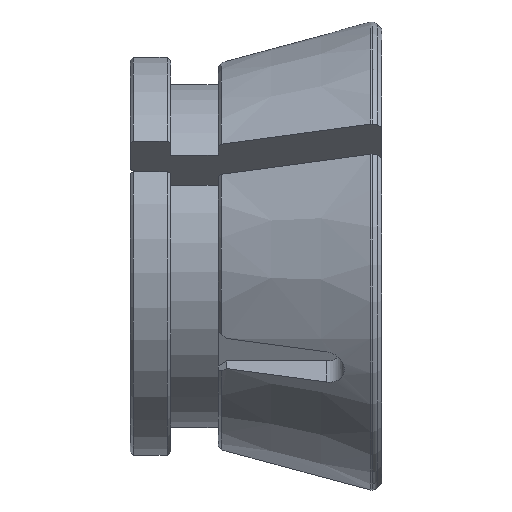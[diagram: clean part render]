
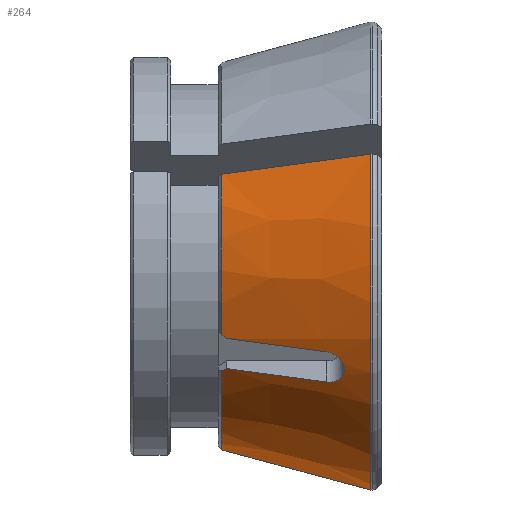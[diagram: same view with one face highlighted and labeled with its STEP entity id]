
A CAD part, top view. The second image highlights one B-rep face of the part: STEP entity #264.
In plain terms, the highlighted conical face has half-angle 15 degrees and reference radius 46.5 mm.
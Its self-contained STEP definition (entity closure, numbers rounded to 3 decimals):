
#78=CONICAL_SURFACE('',#1981,46.5,15.);
#96=ELLIPSE('',#1976,86.53,43.951);
#97=ELLIPSE('',#1980,86.53,43.951);
#161=FACE_OUTER_BOUND('',#627,.T.);
#264=ADVANCED_FACE('',(#161),#78,.T.);
#627=EDGE_LOOP('',(#1030,#1031,#1032,#1033,#1034,#1035,#1036,#1037,#1038,
#1039));
#741=CIRCLE('',#1977,38.572);
#742=CIRCLE('',#1978,46.5);
#743=CIRCLE('',#1979,38.572);
#1030=ORIENTED_EDGE('',*,*,#1670,.F.);
#1031=ORIENTED_EDGE('',*,*,#1671,.T.);
#1032=ORIENTED_EDGE('',*,*,#1661,.T.);
#1033=ORIENTED_EDGE('',*,*,#1672,.T.);
#1034=ORIENTED_EDGE('',*,*,#1642,.F.);
#1035=ORIENTED_EDGE('',*,*,#1673,.T.);
#1036=ORIENTED_EDGE('',*,*,#1674,.F.);
#1037=ORIENTED_EDGE('',*,*,#1675,.F.);
#1038=ORIENTED_EDGE('',*,*,#1676,.F.);
#1039=ORIENTED_EDGE('',*,*,#1677,.F.);
#1425=VERTEX_POINT('',#3225);
#1426=VERTEX_POINT('',#3230);
#1442=VERTEX_POINT('',#3301);
#1443=VERTEX_POINT('',#3309);
#1448=VERTEX_POINT('',#3334);
#1449=VERTEX_POINT('',#3335);
#1450=VERTEX_POINT('',#3339);
#1451=VERTEX_POINT('',#3341);
#1452=VERTEX_POINT('',#3346);
#1453=VERTEX_POINT('',#3378);
#1642=EDGE_CURVE('',#1425,#1426,#1836,.T.);
#1661=EDGE_CURVE('',#1443,#1442,#1845,.T.);
#1670=EDGE_CURVE('',#1448,#1449,#96,.T.);
#1671=EDGE_CURVE('',#1448,#1443,#741,.T.);
#1672=EDGE_CURVE('',#1442,#1426,#742,.T.);
#1673=EDGE_CURVE('',#1425,#1450,#743,.T.);
#1674=EDGE_CURVE('',#1451,#1450,#97,.T.);
#1675=EDGE_CURVE('',#1452,#1451,#1849,.T.);
#1676=EDGE_CURVE('',#1453,#1452,#1850,.T.);
#1677=EDGE_CURVE('',#1449,#1453,#1851,.T.);
#1836=B_SPLINE_CURVE_WITH_KNOTS('',3,(#3226,#3227,#3228,#3229),
 .UNSPECIFIED.,.F.,.F.,(4,4),(0.,1.),.UNSPECIFIED.);
#1845=B_SPLINE_CURVE_WITH_KNOTS('',3,(#3302,#3303,#3304,#3305,#3306,#3307,
#3308),.UNSPECIFIED.,.F.,.F.,(4,3,4),(0.,0.211,1.),
 .UNSPECIFIED.);
#1849=B_SPLINE_CURVE_WITH_KNOTS('',3,(#3342,#3343,#3344,#3345),
 .UNSPECIFIED.,.F.,.F.,(4,4),(0.,1.),.UNSPECIFIED.);
#1850=B_SPLINE_CURVE_WITH_KNOTS('',3,(#3347,#3348,#3349,#3350,#3351,#3352,
#3353,#3354,#3355,#3356,#3357,#3358,#3359,#3360,#3361,#3362,#3363,#3364,
#3365,#3366,#3367,#3368,#3369,#3370,#3371,#3372,#3373,#3374,#3375,#3376,
#3377),.UNSPECIFIED.,.F.,.F.,(4,3,3,3,3,3,3,3,3,3,4),(0.,0.113,
0.226,0.338,0.446,0.547,
0.647,0.748,0.854,0.965,
1.),.UNSPECIFIED.);
#1851=B_SPLINE_CURVE_WITH_KNOTS('',3,(#3379,#3380,#3381,#3382),
 .UNSPECIFIED.,.F.,.F.,(4,4),(0.,1.),.UNSPECIFIED.);
#1976=AXIS2_PLACEMENT_3D('',#3333,#2314,#2315);
#1977=AXIS2_PLACEMENT_3D('',#3336,#2316,#2317);
#1978=AXIS2_PLACEMENT_3D('',#3337,#2318,#2319);
#1979=AXIS2_PLACEMENT_3D('',#3338,#2320,#2321);
#1980=AXIS2_PLACEMENT_3D('',#3340,#2322,#2323);
#1981=AXIS2_PLACEMENT_3D('',#3383,#2324,#2325);
#2314=DIRECTION('',(-0.555,0.721,0.416));
#2315=DIRECTION('',(0.832,0.48,0.277));
#2316=DIRECTION('',(1.,0.,0.));
#2317=DIRECTION('',(0.,0.866,0.5));
#2318=DIRECTION('',(-1.,0.,0.));
#2319=DIRECTION('',(0.,0.,-1.));
#2320=DIRECTION('',(1.,0.,0.));
#2321=DIRECTION('',(0.,0.866,0.5));
#2322=DIRECTION('',(-0.555,-0.721,-0.416));
#2323=DIRECTION('',(0.832,-0.48,-0.277));
#2324=DIRECTION('',(1.,0.,0.));
#2325=DIRECTION('',(0.,0.866,0.5));
#3225=CARTESIAN_POINT('',(11.539,16.221,34.996));
#3226=CARTESIAN_POINT('',(11.539,16.221,34.996));
#3227=CARTESIAN_POINT('',(21.4,17.547,37.293));
#3228=CARTESIAN_POINT('',(31.262,18.873,39.589));
#3229=CARTESIAN_POINT('',(41.125,20.198,41.884));
#3230=CARTESIAN_POINT('',(41.125,20.198,41.884));
#3301=CARTESIAN_POINT('',(41.125,-46.372,3.45));
#3302=CARTESIAN_POINT('',(11.539,-38.418,3.45));
#3303=CARTESIAN_POINT('',(13.617,-38.977,3.45));
#3304=CARTESIAN_POINT('',(15.696,-39.536,3.45));
#3305=CARTESIAN_POINT('',(17.774,-40.095,3.45));
#3306=CARTESIAN_POINT('',(25.557,-42.188,3.45));
#3307=CARTESIAN_POINT('',(33.341,-44.28,3.45));
#3308=CARTESIAN_POINT('',(41.125,-46.372,3.45));
#3309=CARTESIAN_POINT('',(11.539,-38.418,3.45));
#3333=CARTESIAN_POINT('',(46.716,16.707,9.646));
#3334=CARTESIAN_POINT('',(11.539,-22.776,31.13));
#3335=CARTESIAN_POINT('',(12.603,-22.34,31.794));
#3336=CARTESIAN_POINT('',(11.539,0.,0.));
#3337=CARTESIAN_POINT('',(41.125,0.,0.));
#3338=CARTESIAN_POINT('',(11.539,0.,0.));
#3339=CARTESIAN_POINT('',(11.539,-15.571,35.29));
#3340=CARTESIAN_POINT('',(46.716,-16.707,-9.646));
#3341=CARTESIAN_POINT('',(12.603,-16.364,35.244));
#3342=CARTESIAN_POINT('',(32.471,-19.035,39.87));
#3343=CARTESIAN_POINT('',(25.848,-18.145,38.329));
#3344=CARTESIAN_POINT('',(19.226,-17.255,36.787));
#3345=CARTESIAN_POINT('',(12.603,-16.364,35.244));
#3346=CARTESIAN_POINT('',(32.471,-19.035,39.87));
#3347=CARTESIAN_POINT('',(32.471,-25.011,36.42));
#3348=CARTESIAN_POINT('',(32.872,-25.065,36.513));
#3349=CARTESIAN_POINT('',(33.277,-25.06,36.649));
#3350=CARTESIAN_POINT('',(33.653,-24.997,36.813));
#3351=CARTESIAN_POINT('',(34.029,-24.934,36.978));
#3352=CARTESIAN_POINT('',(34.386,-24.811,37.176));
#3353=CARTESIAN_POINT('',(34.694,-24.635,37.391));
#3354=CARTESIAN_POINT('',(35.,-24.46,37.604));
#3355=CARTESIAN_POINT('',(35.267,-24.228,37.84));
#3356=CARTESIAN_POINT('',(35.468,-23.957,38.074));
#3357=CARTESIAN_POINT('',(35.661,-23.696,38.299));
#3358=CARTESIAN_POINT('',(35.799,-23.391,38.53));
#3359=CARTESIAN_POINT('',(35.868,-23.067,38.745));
#3360=CARTESIAN_POINT('',(35.934,-22.76,38.948));
#3361=CARTESIAN_POINT('',(35.939,-22.426,39.143));
#3362=CARTESIAN_POINT('',(35.882,-22.096,39.311));
#3363=CARTESIAN_POINT('',(35.827,-21.774,39.475));
#3364=CARTESIAN_POINT('',(35.713,-21.447,39.619));
#3365=CARTESIAN_POINT('',(35.55,-21.14,39.732));
#3366=CARTESIAN_POINT('',(35.383,-20.828,39.848));
#3367=CARTESIAN_POINT('',(35.163,-20.529,39.936));
#3368=CARTESIAN_POINT('',(34.905,-20.266,39.992));
#3369=CARTESIAN_POINT('',(34.636,-19.99,40.051));
#3370=CARTESIAN_POINT('',(34.321,-19.747,40.076));
#3371=CARTESIAN_POINT('',(33.983,-19.553,40.07));
#3372=CARTESIAN_POINT('',(33.63,-19.351,40.064));
#3373=CARTESIAN_POINT('',(33.243,-19.197,40.022));
#3374=CARTESIAN_POINT('',(32.853,-19.106,39.95));
#3375=CARTESIAN_POINT('',(32.726,-19.076,39.927));
#3376=CARTESIAN_POINT('',(32.599,-19.052,39.9));
#3377=CARTESIAN_POINT('',(32.471,-19.035,39.87));
#3378=CARTESIAN_POINT('',(32.471,-25.011,36.42));
#3379=CARTESIAN_POINT('',(12.603,-22.34,31.794));
#3380=CARTESIAN_POINT('',(19.226,-23.231,33.337));
#3381=CARTESIAN_POINT('',(25.848,-24.121,34.879));
#3382=CARTESIAN_POINT('',(32.471,-25.011,36.42));
#3383=CARTESIAN_POINT('',(41.125,0.,0.));
